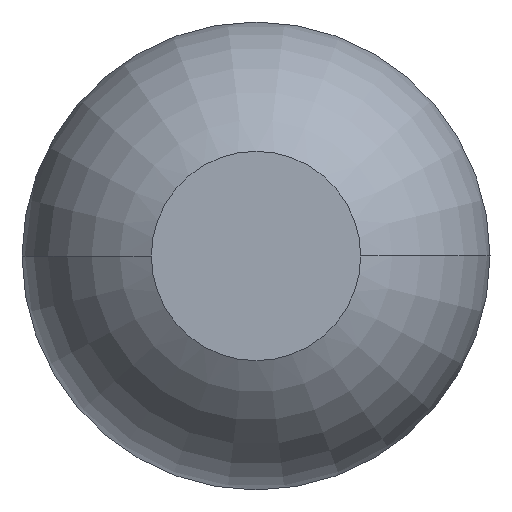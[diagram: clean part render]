
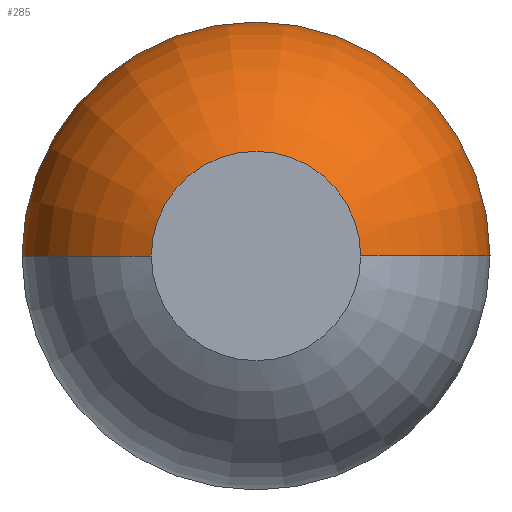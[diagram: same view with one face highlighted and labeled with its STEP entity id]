
A CAD part, left-side view. The second image highlights one B-rep face of the part: STEP entity #285.
In plain terms, the highlighted toroidal (fillet/blend) face has major radius 0.003 mm and minor radius 0.508 mm.
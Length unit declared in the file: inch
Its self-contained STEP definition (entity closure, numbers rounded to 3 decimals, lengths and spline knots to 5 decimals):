
#45 = EDGE_CURVE ( 'NONE', #676, #765, #643, .T. ) ;
#50 = CARTESIAN_POINT ( 'NONE',  ( 0.01792, 0.00013, 0. ) ) ;
#83 = ORIENTED_EDGE ( 'NONE', *, *, #420, .T. ) ;
#86 = CARTESIAN_POINT ( 'NONE',  ( 0.01792, 0., 0. ) ) ;
#88 = EDGE_CURVE ( 'NONE', #676, #280, #135, .T. ) ;
#120 = DIRECTION ( 'NONE',  ( 1., 0., 0. ) ) ;
#128 = DIRECTION ( 'NONE',  ( 0., 0., 1. ) ) ;
#135 = CIRCLE ( 'NONE', #289, 0.02 ) ;
#165 = CIRCLE ( 'NONE', #532, 0.02 ) ;
#196 = AXIS2_PLACEMENT_3D ( 'NONE', #642, #352, #414 ) ;
#200 = CARTESIAN_POINT ( 'NONE',  ( 0.01792, 0.02013, 0. ) ) ;
#239 = DIRECTION ( 'NONE',  ( 0., -1., 0. ) ) ;
#280 = VERTEX_POINT ( 'NONE', #200 ) ;
#285 = ADVANCED_FACE ( 'NONE', ( #604 ), #434, .T. ) ;
#289 = AXIS2_PLACEMENT_3D ( 'NONE', #50, #529, #294 ) ;
#294 = DIRECTION ( 'NONE',  ( -1., 0., 0. ) ) ;
#299 = AXIS2_PLACEMENT_3D ( 'NONE', #86, #614, #502 ) ;
#341 = EDGE_CURVE ( 'NONE', #280, #426, #592, .T. ) ;
#352 = DIRECTION ( 'NONE',  ( 1., 0., 0. ) ) ;
#359 = AXIS2_PLACEMENT_3D ( 'NONE', #436, #120, #715 ) ;
#380 = ORIENTED_EDGE ( 'NONE', *, *, #341, .F. ) ;
#414 = DIRECTION ( 'NONE',  ( 0., 1., 0. ) ) ;
#420 = EDGE_CURVE ( 'NONE', #765, #426, #165, .T. ) ;
#426 = VERTEX_POINT ( 'NONE', #429 ) ;
#429 = CARTESIAN_POINT ( 'NONE',  ( 0.01792, -0.02013, 0. ) ) ;
#434 = TOROIDAL_SURFACE ( 'NONE', #299, 0.00013, 0.02 ) ;
#436 = CARTESIAN_POINT ( 'NONE',  ( 0.01792, 0., 0. ) ) ;
#453 = ORIENTED_EDGE ( 'NONE', *, *, #88, .F. ) ;
#489 = EDGE_LOOP ( 'NONE', ( #510, #83, #380, #453 ) ) ;
#502 = DIRECTION ( 'NONE',  ( 0., 1., 0. ) ) ;
#510 = ORIENTED_EDGE ( 'NONE', *, *, #45, .T. ) ;
#529 = DIRECTION ( 'NONE',  ( 0., 0., -1. ) ) ;
#532 = AXIS2_PLACEMENT_3D ( 'NONE', #721, #128, #239 ) ;
#539 = CARTESIAN_POINT ( 'NONE',  ( 0., -0.009, 0. ) ) ;
#592 = CIRCLE ( 'NONE', #359, 0.02013 ) ;
#604 = FACE_OUTER_BOUND ( 'NONE', #489, .T. ) ;
#614 = DIRECTION ( 'NONE',  ( 1., 0., 0. ) ) ;
#642 = CARTESIAN_POINT ( 'NONE',  ( 0., 0., 0. ) ) ;
#643 = CIRCLE ( 'NONE', #196, 0.009 ) ;
#676 = VERTEX_POINT ( 'NONE', #713 ) ;
#713 = CARTESIAN_POINT ( 'NONE',  ( 0., 0.009, 0. ) ) ;
#715 = DIRECTION ( 'NONE',  ( 0., 1., 0. ) ) ;
#721 = CARTESIAN_POINT ( 'NONE',  ( 0.01792, -0.00013, 0. ) ) ;
#765 = VERTEX_POINT ( 'NONE', #539 ) ;
